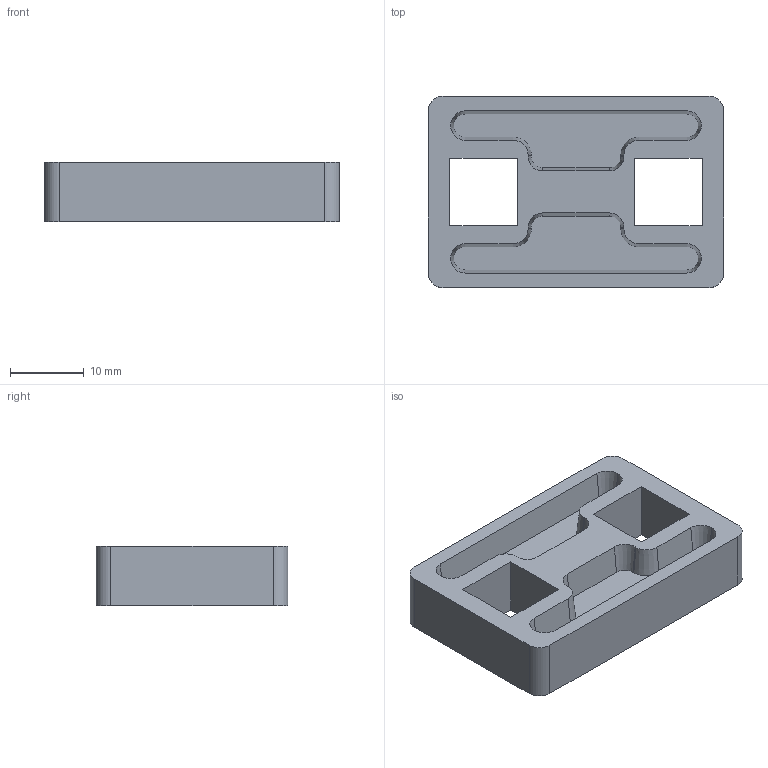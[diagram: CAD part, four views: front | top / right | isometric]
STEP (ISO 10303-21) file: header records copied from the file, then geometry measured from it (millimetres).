
FILE_DESCRIPTION (( 'STEP AP214' ), '1' );
FILE_NAME ('Dystans D314-85.STEP', '2010-03-03T18:42:44', ( '£ukaszC' ), ( '' ), 'SwSTEP 2.0', 'SolidWorks 2008', '' );
FILE_SCHEMA (( 'AUTOMOTIVE_DESIGN' ));
Length unit declared in the file: millimetre
Products named in the file (1): Dystans D314-85
Bounding box: 40 x 26 x 8 mm (x, y, z)
Volume: 5574.4 mm3; surface area: 3900.3 mm2
Topology: 1 solids, 1 shells, 46 faces, 126 edges, 84 vertices
Faces by surface type: plane 24, cone 18, cylinder 4
Entity records: 2010 total; most frequent: DIRECTION 263, CARTESIAN_POINT 258, ORIENTED_EDGE 252, EDGE_CURVE 126, AXIS2_PLACEMENT_3D 91, VERTEX_POINT 84, VECTOR 81, LINE 81
